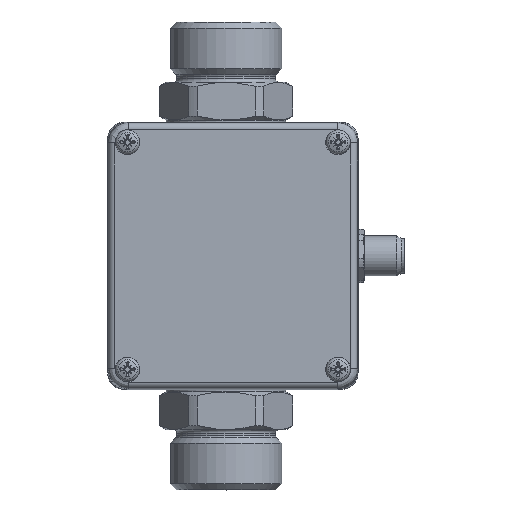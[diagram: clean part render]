
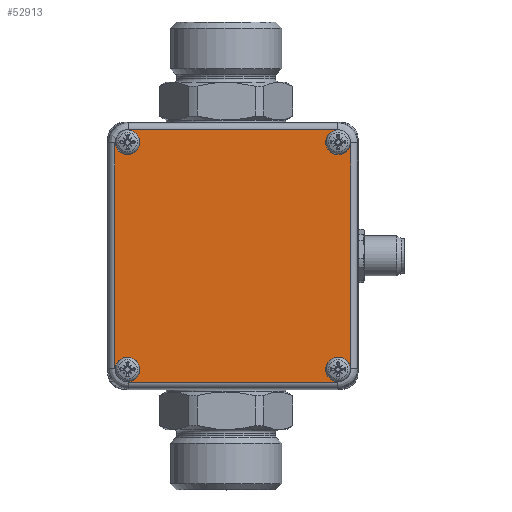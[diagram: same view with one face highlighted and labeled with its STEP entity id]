
A CAD part, top view. The second image highlights one B-rep face of the part: STEP entity #52913.
In plain terms, the highlighted planar face has unit normal (0, 0, 1) by its records, which use the part's own axes.
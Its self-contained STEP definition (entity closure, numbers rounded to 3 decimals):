
#239=ELLIPSE('',#56670,0.4,0.4);
#240=ELLIPSE('',#56671,0.4,0.4);
#241=ELLIPSE('',#56673,0.4,0.4);
#242=ELLIPSE('',#56674,0.4,0.4);
#243=ELLIPSE('',#56675,0.4,0.4);
#244=ELLIPSE('',#56676,0.4,0.4);
#245=ELLIPSE('',#56677,0.4,0.4);
#246=ELLIPSE('',#56678,0.4,0.4);
#6100=FACE_OUTER_BOUND('',#9578,.T.);
#9578=EDGE_LOOP('',(#44825,#44826,#44827,#44828,#44829,#44830,#44831,#44832,
#44833,#44834,#44835,#44836,#44837,#44838,#44839,#44840));
#11098=CIRCLE('',#56468,0.37);
#11100=CIRCLE('',#56471,0.37);
#11178=CIRCLE('',#56667,0.37);
#11180=CIRCLE('',#56672,0.37);
#15524=LINE('',#104717,#19821);
#15525=LINE('',#104725,#19822);
#15526=LINE('',#104730,#19823);
#15527=LINE('',#104735,#19824);
#19821=VECTOR('',#68083,6.755);
#19822=VECTOR('',#68090,6.255);
#19823=VECTOR('',#68095,6.755);
#19824=VECTOR('',#68100,6.255);
#24167=VERTEX_POINT('',#94040);
#24168=VERTEX_POINT('',#94041);
#24170=VERTEX_POINT('',#94052);
#24171=VERTEX_POINT('',#94053);
#24342=VERTEX_POINT('',#104702);
#24343=VERTEX_POINT('',#104703);
#24345=VERTEX_POINT('',#104714);
#24346=VERTEX_POINT('',#104716);
#24347=VERTEX_POINT('',#104718);
#24348=VERTEX_POINT('',#104720);
#24349=VERTEX_POINT('',#104722);
#24350=VERTEX_POINT('',#104724);
#24351=VERTEX_POINT('',#104727);
#24352=VERTEX_POINT('',#104729);
#24353=VERTEX_POINT('',#104732);
#24354=VERTEX_POINT('',#104734);
#30951=EDGE_CURVE('',#24168,#24167,#11098,.T.);
#30954=EDGE_CURVE('',#24171,#24170,#11100,.T.);
#31252=EDGE_CURVE('',#24343,#24342,#11178,.T.);
#31254=EDGE_CURVE('',#24345,#24170,#239,.T.);
#31255=EDGE_CURVE('',#24346,#24345,#15524,.T.);
#31256=EDGE_CURVE('',#24347,#24346,#240,.T.);
#31257=EDGE_CURVE('',#24347,#24348,#11180,.T.);
#31258=EDGE_CURVE('',#24349,#24348,#241,.T.);
#31259=EDGE_CURVE('',#24350,#24349,#15525,.T.);
#31260=EDGE_CURVE('',#24343,#24350,#242,.T.);
#31261=EDGE_CURVE('',#24351,#24342,#243,.T.);
#31262=EDGE_CURVE('',#24352,#24351,#15526,.T.);
#31263=EDGE_CURVE('',#24168,#24352,#244,.T.);
#31264=EDGE_CURVE('',#24353,#24167,#245,.T.);
#31265=EDGE_CURVE('',#24354,#24353,#15527,.T.);
#31266=EDGE_CURVE('',#24171,#24354,#246,.T.);
#44825=ORIENTED_EDGE('',*,*,#31254,.F.);
#44826=ORIENTED_EDGE('',*,*,#31255,.F.);
#44827=ORIENTED_EDGE('',*,*,#31256,.F.);
#44828=ORIENTED_EDGE('',*,*,#31257,.T.);
#44829=ORIENTED_EDGE('',*,*,#31258,.F.);
#44830=ORIENTED_EDGE('',*,*,#31259,.F.);
#44831=ORIENTED_EDGE('',*,*,#31260,.F.);
#44832=ORIENTED_EDGE('',*,*,#31252,.T.);
#44833=ORIENTED_EDGE('',*,*,#31261,.F.);
#44834=ORIENTED_EDGE('',*,*,#31262,.F.);
#44835=ORIENTED_EDGE('',*,*,#31263,.F.);
#44836=ORIENTED_EDGE('',*,*,#30951,.T.);
#44837=ORIENTED_EDGE('',*,*,#31264,.F.);
#44838=ORIENTED_EDGE('',*,*,#31265,.F.);
#44839=ORIENTED_EDGE('',*,*,#31266,.F.);
#44840=ORIENTED_EDGE('',*,*,#30954,.T.);
#47644=PLANE('',#56669);
#52913=ADVANCED_FACE('',(#6100),#47644,.T.);
#56468=AXIS2_PLACEMENT_3D('',#94048,#67558,#67559);
#56471=AXIS2_PLACEMENT_3D('',#94060,#67564,#67565);
#56667=AXIS2_PLACEMENT_3D('',#104710,#68075,#68076);
#56669=AXIS2_PLACEMENT_3D('',#104713,#68079,#68080);
#56670=AXIS2_PLACEMENT_3D('',#104715,#68081,#68082);
#56671=AXIS2_PLACEMENT_3D('',#104719,#68084,#68085);
#56672=AXIS2_PLACEMENT_3D('',#104721,#68086,#68087);
#56673=AXIS2_PLACEMENT_3D('',#104723,#68088,#68089);
#56674=AXIS2_PLACEMENT_3D('',#104726,#68091,#68092);
#56675=AXIS2_PLACEMENT_3D('',#104728,#68093,#68094);
#56676=AXIS2_PLACEMENT_3D('',#104731,#68096,#68097);
#56677=AXIS2_PLACEMENT_3D('',#104733,#68098,#68099);
#56678=AXIS2_PLACEMENT_3D('',#104736,#68101,#68102);
#67558=DIRECTION('center_axis',(0.,0.,
-1.));
#67559=DIRECTION('ref_axis',(1.,0.,0.));
#67564=DIRECTION('center_axis',(0.,0.,
-1.));
#67565=DIRECTION('ref_axis',(1.,0.,0.));
#68075=DIRECTION('center_axis',(0.,0.,
-1.));
#68076=DIRECTION('ref_axis',(1.,0.,0.));
#68079=DIRECTION('center_axis',(0.,0.,
1.));
#68080=DIRECTION('ref_axis',(-1.,0.,0.));
#68081=DIRECTION('center_axis',(0.,0.,
-1.));
#68082=DIRECTION('ref_axis',(-0.707,0.707,0.));
#68083=DIRECTION('',(0.,1.,0.));
#68084=DIRECTION('center_axis',(0.,0.,
-1.));
#68085=DIRECTION('ref_axis',(-0.707,-0.707,0.));
#68086=DIRECTION('center_axis',(0.,0.,
-1.));
#68087=DIRECTION('ref_axis',(1.,0.,0.));
#68088=DIRECTION('center_axis',(0.,0.,
-1.));
#68089=DIRECTION('ref_axis',(-0.707,-0.707,0.));
#68090=DIRECTION('',(-1.,0.,0.));
#68091=DIRECTION('center_axis',(0.,0.,
-1.));
#68092=DIRECTION('ref_axis',(0.707,-0.707,0.));
#68093=DIRECTION('center_axis',(0.,0.,
-1.));
#68094=DIRECTION('ref_axis',(0.707,-0.707,0.));
#68095=DIRECTION('',(0.,-1.,0.));
#68096=DIRECTION('center_axis',(0.,0.,
-1.));
#68097=DIRECTION('ref_axis',(0.707,0.707,0.));
#68098=DIRECTION('center_axis',(0.,0.,
-1.));
#68099=DIRECTION('ref_axis',(0.707,0.707,0.));
#68100=DIRECTION('',(1.,0.,0.));
#68101=DIRECTION('center_axis',(0.,0.,
-1.));
#68102=DIRECTION('ref_axis',(-0.707,0.707,0.));
#94040=CARTESIAN_POINT('',(3.496,3.74,3.6));
#94041=CARTESIAN_POINT('',(3.69,3.546,3.6));
#94048=CARTESIAN_POINT('Origin',(3.35,3.4,3.6));
#94052=CARTESIAN_POINT('',(-3.29,3.546,3.6));
#94053=CARTESIAN_POINT('',(-3.096,3.74,3.6));
#94060=CARTESIAN_POINT('Origin',(-2.95,3.4,3.6));
#104702=CARTESIAN_POINT('',(3.69,-3.546,3.6));
#104703=CARTESIAN_POINT('',(3.496,-3.74,3.6));
#104710=CARTESIAN_POINT('Origin',(3.35,-3.4,3.6));
#104713=CARTESIAN_POINT('Origin',(0.2,0.,3.6));
#104714=CARTESIAN_POINT('',(-3.327,3.377,3.6));
#104715=CARTESIAN_POINT('Origin',(-2.927,3.377,3.6));
#104716=CARTESIAN_POINT('',(-3.327,-3.377,3.6));
#104717=CARTESIAN_POINT('',(-3.327,-3.377,3.6));
#104718=CARTESIAN_POINT('',(-3.29,-3.546,3.6));
#104719=CARTESIAN_POINT('Origin',(-2.927,-3.377,3.6));
#104720=CARTESIAN_POINT('',(-3.096,-3.74,3.6));
#104721=CARTESIAN_POINT('Origin',(-2.95,-3.4,3.6));
#104722=CARTESIAN_POINT('',(-2.927,-3.777,3.6));
#104723=CARTESIAN_POINT('Origin',(-2.927,-3.377,3.6));
#104724=CARTESIAN_POINT('',(3.327,-3.777,3.6));
#104725=CARTESIAN_POINT('',(3.327,-3.777,3.6));
#104726=CARTESIAN_POINT('Origin',(3.327,-3.377,3.6));
#104727=CARTESIAN_POINT('',(3.727,-3.377,3.6));
#104728=CARTESIAN_POINT('Origin',(3.327,-3.377,3.6));
#104729=CARTESIAN_POINT('',(3.727,3.377,3.6));
#104730=CARTESIAN_POINT('',(3.727,3.377,3.6));
#104731=CARTESIAN_POINT('Origin',(3.327,3.377,3.6));
#104732=CARTESIAN_POINT('',(3.327,3.777,3.6));
#104733=CARTESIAN_POINT('Origin',(3.327,3.377,3.6));
#104734=CARTESIAN_POINT('',(-2.927,3.777,3.6));
#104735=CARTESIAN_POINT('',(-2.927,3.777,3.6));
#104736=CARTESIAN_POINT('Origin',(-2.927,3.377,3.6));
